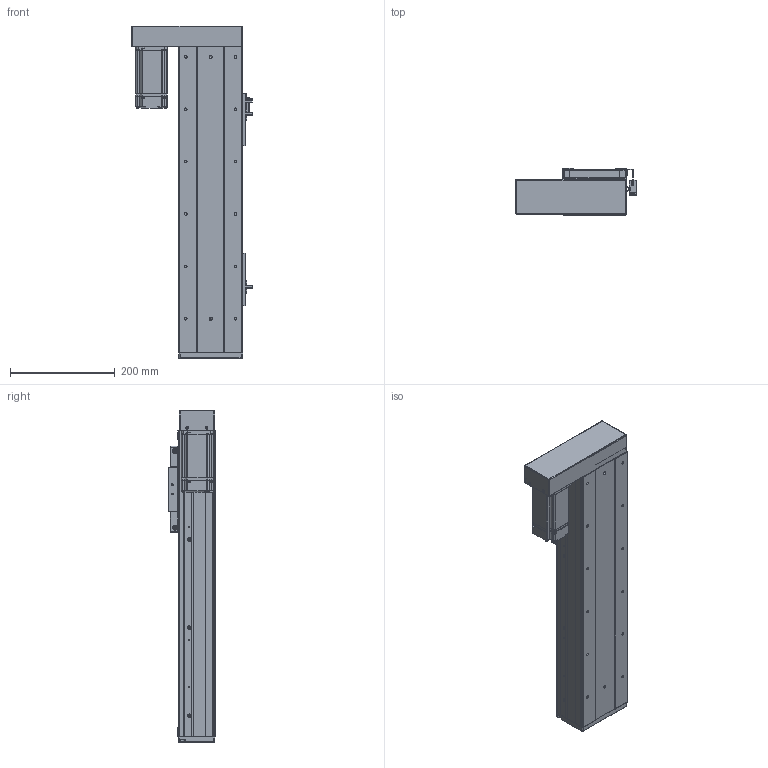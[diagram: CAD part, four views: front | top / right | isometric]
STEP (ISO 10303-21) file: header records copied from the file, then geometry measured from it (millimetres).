
FILE_DESCRIPTION (( 'STEP AP203' ), '1' );
FILE_NAME ('RY120F-L1620-300-LK.SLDASM_350.step', '2021-03-02T08:03:43', ( '盈信电脑' ), ( '东莞市道滘镇水果街19号' ), 'SwSTEP 2.0', 'SolidWorks 2012', '' );
FILE_SCHEMA (( 'CONFIG_CONTROL_DESIGN' ));
Length unit declared in the file: millimetre
Products named in the file (18): 15; RY120F酘衵殏萇儂啣(200W PCD70 M4); RY120F酘衵殏萇儂欶(200W); RY120F-L1620-300-LK.SLDASM_350; FY120F詩湍揤踡輸; 672嫖萇羲壽假蚾釱; RY80俋离覜茼え; RY120F綴裔啣(臏璃ㄘ; 覜茼ん672; 滅袉蝶18-24; RY120F-詩湍幗謫粣; RT120F-臏賑輸奻釱; RT120F-臏賑輸 16蹟譫; RY120F祥凄詩滅鳥裔; RY120F转折电机端支撑座; RY120F滅鳥詩湍-300-LK_350; RT120F-300-倰第菁釱-LK_350; RT120F-300-倰第裔啣-LK_350
Assembly tree (23 placements, depth 2):
  RY120F-L1620-300-LK.SLDASM_350
    RT120F-300-倰第菁釱-LK_350
    RT120F-300-倰第裔啣-LK_350  x2
    RY120F滅鳥詩湍-300-LK_350
    RT120F-臏賑輸 16蹟譫
    RT120F-臏賑輸奻釱
    RY120F转折电机端支撑座
    RY120F祥凄詩滅鳥裔
    滅袉蝶18-24  x2
    RY120F綴裔啣(臏璃ㄘ
    RY120F-詩湍幗謫粣
    覜茼ん672  x3
    672嫖萇羲壽假蚾釱  x2
    RY80俋离覜茼え
    FY120F詩湍揤踡輸  x2
    15
    RY120F酘衵殏萇儂啣(200W PCD70 M4)
    RY120F酘衵殏萇儂欶(200W)
Bounding box: 229.9 x 89 x 634 mm (x, y, z)
Volume: 2623388.3 mm3; surface area: 937236.1 mm2
Topology: 23 solids, 23 shells, 2035 faces, 5457 edges, 3483 vertices
Faces by surface type: cylinder 896, plane 896, cone 217, bspline 26
Entity records: 56959 total; most frequent: CARTESIAN_POINT 10550, DIRECTION 9589, ORIENTED_EDGE 8978, EDGE_CURVE 4489, AXIS2_PLACEMENT_3D 3454, VERTEX_POINT 2927, LINE 2681, VECTOR 2681
